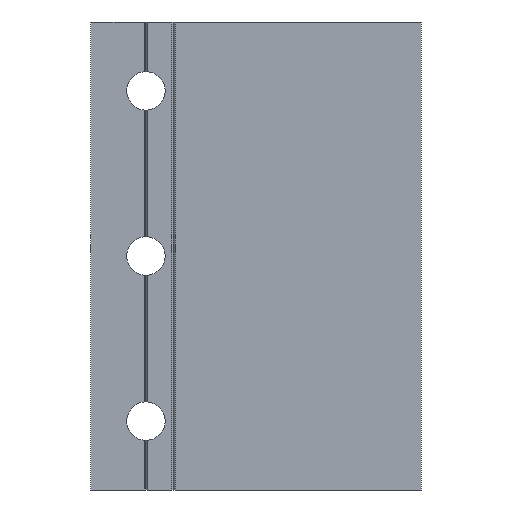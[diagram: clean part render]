
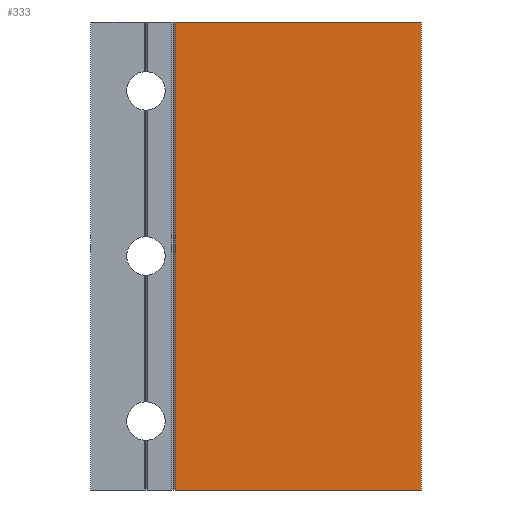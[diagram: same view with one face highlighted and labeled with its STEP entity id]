
A CAD part, front view. The second image highlights one B-rep face of the part: STEP entity #333.
In plain terms, the highlighted planar face has unit normal (0, -1, 0).
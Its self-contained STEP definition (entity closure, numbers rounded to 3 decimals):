
#64 = ORIENTED_EDGE ( 'NONE', *, *, #930, .T. ) ;
#94 = CARTESIAN_POINT ( 'NONE',  ( 0., 0., -42.5 ) ) ;
#164 = VERTEX_POINT ( 'NONE', #94 ) ;
#197 = LINE ( 'NONE', #1964, #1406 ) ;
#264 = EDGE_CURVE ( 'NONE', #1109, #623, #1435, .T. ) ;
#333 = ADVANCED_FACE ( 'NONE', ( #2334 ), #2528, .F. ) ;
#345 = LINE ( 'NONE', #818, #1417 ) ;
#363 = DIRECTION ( 'NONE',  ( 1., 0., 0. ) ) ;
#516 = DIRECTION ( 'NONE',  ( 0., 0., -1. ) ) ;
#564 = CARTESIAN_POINT ( 'NONE',  ( 0., 0., 42.5 ) ) ;
#623 = VERTEX_POINT ( 'NONE', #564 ) ;
#646 = VERTEX_POINT ( 'NONE', #2778 ) ;
#704 = ORIENTED_EDGE ( 'NONE', *, *, #1328, .F. ) ;
#818 = CARTESIAN_POINT ( 'NONE',  ( -44.7, 0., 42.5 ) ) ;
#921 = DIRECTION ( 'NONE',  ( 1., 0., 0. ) ) ;
#930 = EDGE_CURVE ( 'NONE', #1109, #646, #345, .T. ) ;
#1063 = AXIS2_PLACEMENT_3D ( 'NONE', #2088, #2736, #1433 ) ;
#1103 = CARTESIAN_POINT ( 'NONE',  ( -44.7, 0., 42.5 ) ) ;
#1109 = VERTEX_POINT ( 'NONE', #1103 ) ;
#1288 = ORIENTED_EDGE ( 'NONE', *, *, #1826, .T. ) ;
#1305 = DIRECTION ( 'NONE',  ( 0., 0., -1. ) ) ;
#1328 = EDGE_CURVE ( 'NONE', #623, #164, #197, .T. ) ;
#1406 = VECTOR ( 'NONE', #1305, 1000. ) ;
#1417 = VECTOR ( 'NONE', #516, 1000. ) ;
#1433 = DIRECTION ( 'NONE',  ( 0., 0., 1. ) ) ;
#1435 = LINE ( 'NONE', #2490, #2535 ) ;
#1470 = LINE ( 'NONE', #2673, #2119 ) ;
#1802 = ORIENTED_EDGE ( 'NONE', *, *, #264, .F. ) ;
#1826 = EDGE_CURVE ( 'NONE', #646, #164, #1470, .T. ) ;
#1964 = CARTESIAN_POINT ( 'NONE',  ( 0., 0., 42.5 ) ) ;
#2088 = CARTESIAN_POINT ( 'NONE',  ( 0., 0., 42.5 ) ) ;
#2119 = VECTOR ( 'NONE', #363, 1000. ) ;
#2334 = FACE_OUTER_BOUND ( 'NONE', #2475, .T. ) ;
#2475 = EDGE_LOOP ( 'NONE', ( #1288, #704, #1802, #64 ) ) ;
#2490 = CARTESIAN_POINT ( 'NONE',  ( 0., 0., 42.5 ) ) ;
#2528 = PLANE ( 'NONE',  #1063 ) ;
#2535 = VECTOR ( 'NONE', #921, 1000. ) ;
#2673 = CARTESIAN_POINT ( 'NONE',  ( 0., 0., -42.5 ) ) ;
#2736 = DIRECTION ( 'NONE',  ( 0., 1., 0. ) ) ;
#2778 = CARTESIAN_POINT ( 'NONE',  ( -44.7, 0., -42.5 ) ) ;
